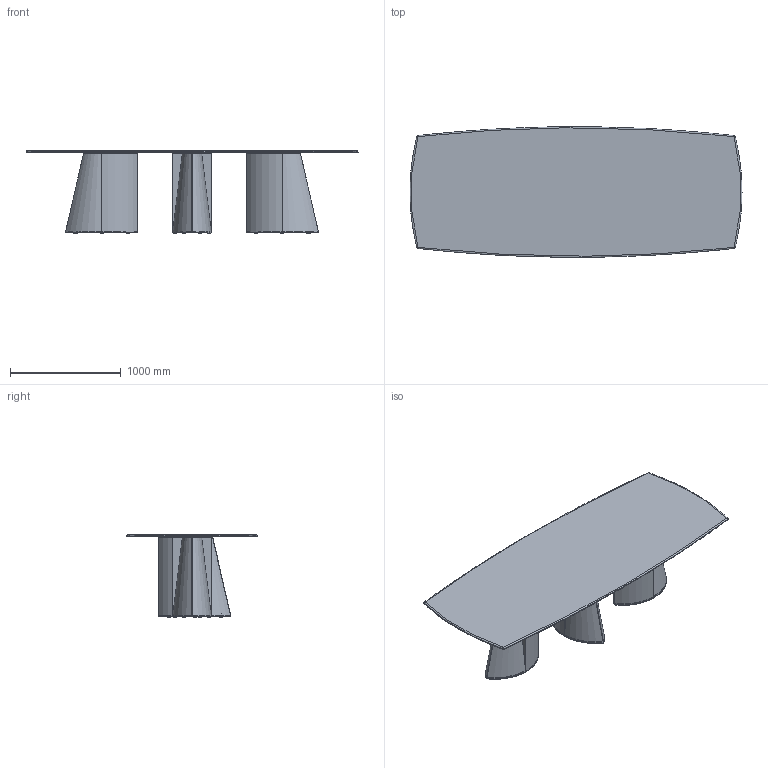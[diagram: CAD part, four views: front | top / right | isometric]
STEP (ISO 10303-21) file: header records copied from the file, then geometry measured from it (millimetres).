
FILE_DESCRIPTION(/* description */ (''),/* implementation_level */ '2;1');
FILE_NAME(/* name */ 'OGIS303_3D',/* time_stamp */ '2026-06-30T10:00:39+02:00',/* author */ (''),/* organization */ (''),/* preprocessor_version */ 'ST-DEVELOPER v16.5',/* originating_system */ '',/* authorisation */ '');
FILE_SCHEMA (('CONFIG_CONTROL_DESIGN'));
Length unit declared in the file: millimetre
Products named in the file (1): Document
Bounding box: 2998.83 x 1179.68 x 745.03 mm (x, y, z)
Volume: 57950003.7 mm3; surface area: 14797719.5 mm2
Topology: 67 solids, 67 shells, 779 faces, 1603 edges, 958 vertices
Faces by surface type: plane 500, bspline 279
Entity records: 23963 total; most frequent: CARTESIAN_POINT 12830, ORIENTED_EDGE 3206, EDGE_CURVE 1603, B_SPLINE_CURVE_WITH_KNOTS 1131, VERTEX_POINT 958, EDGE_LOOP 839, ADVANCED_FACE 779, FACE_OUTER_BOUND 779
